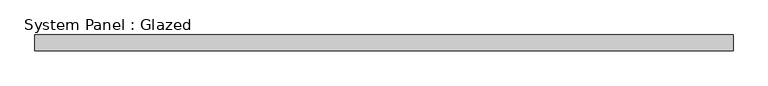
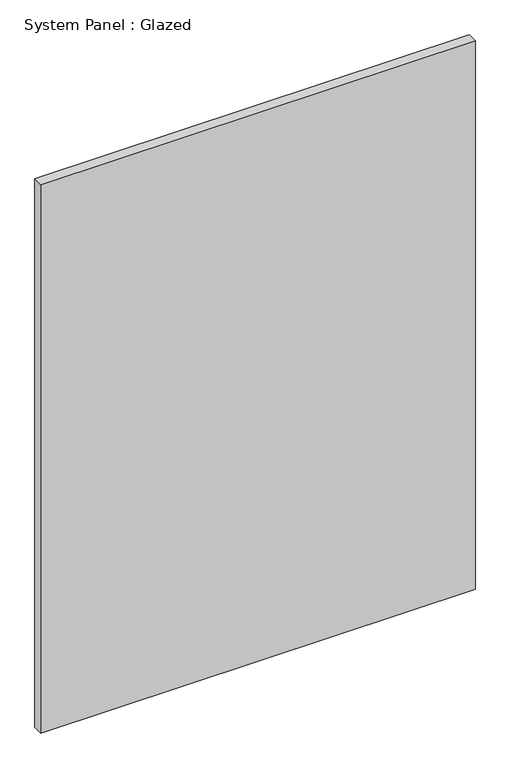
"""IFC4 building model written with IfcOpenShell, lengths in millimetres: plate geometry, System Panel : Glazed."""

from ifc_helpers import new_model, si_unit, origin, origin_with_axes, place, context, project, spatial, polyline, outline, extrude, source, transform, mapped, element, save


def system_panel_glazed_4e4f70a1(model_context):
    return source(origin(), model_context, "Body", "SweptSolid", [
        extrude(outline(polyline([(557.2124998, 19.05), (-557.2124998, 19.05), (-557.2124998, 44.45), (557.2124998, 44.45), (557.2124998, 19.05)])), origin_with_axes(), (0.0, 0.0, 1.0), 1485.9),
    ])


if __name__ == "__main__":
    model = new_model("IFC4")
    model_context = context("Model", 3, world=origin())
    ifc_project = project(units=[si_unit("LENGTHUNIT", "METRE", prefix="MILLI")], contexts=[model_context])
    site = spatial("IfcSite", under=ifc_project)
    building = spatial("IfcBuilding", under=site)
    placement = place(None, origin())
    system_panel_glazed_shape = system_panel_glazed_4e4f70a1(model_context)
    element("IfcPlate", 1, ObjectType="System Panel : Glazed", at=placement, inside=building, context=model_context, shape_type="MappedRepresentation", body=[
        mapped(system_panel_glazed_shape, transform((0.0, 0.0, 0.0), x_axis=(1.0, 0.0, 0.0), y_axis=(0.0, 1.0, 0.0), z_axis=(0.0, 0.0, 1.0))),
    ])
    save(model, "model.ifc")
